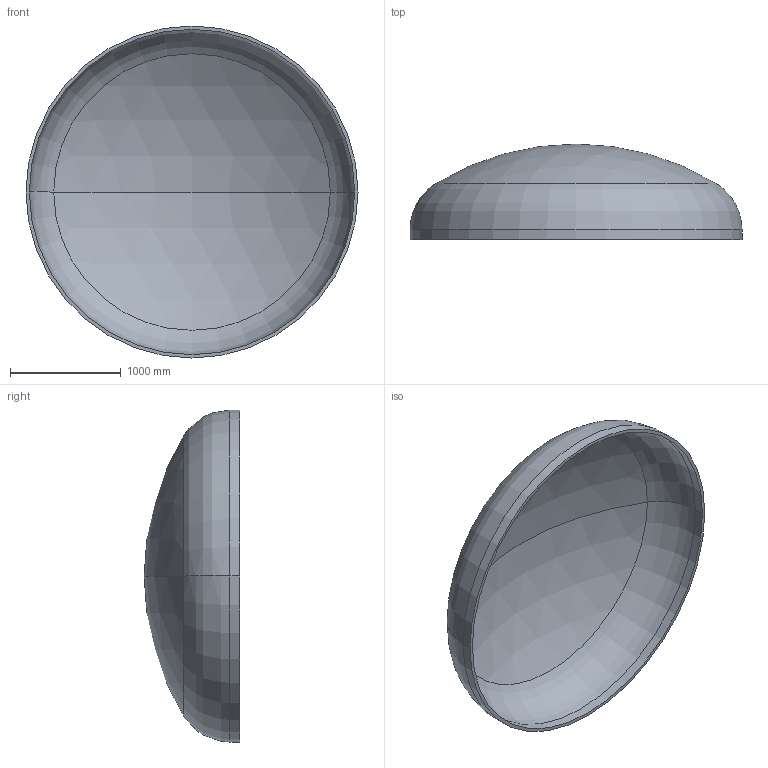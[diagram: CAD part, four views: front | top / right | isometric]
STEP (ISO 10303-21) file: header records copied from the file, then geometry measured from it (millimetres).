
FILE_DESCRIPTION (( 'STEP AP203' ), '1' );
FILE_NAME ('DIN 28013 Korbbogenform_-_Boden DIN 28013 - 3000 x 90 - I - s=30.step', '2016-07-01T17:40:05', ( '' ), ( '' ), 'SwSTEP 2.0', 'SolidWorks 2013', '' );
FILE_SCHEMA (( 'CONFIG_CONTROL_DESIGN' ));
Length unit declared in the file: millimetre
Products named in the file (1): DIN 28013 Korbbogenform_-_Boden DIN 28013 - 3000 x 90 - I - s=30
Bounding box: 3000 x 863.65 x 3000 mm (x, y, z)
Volume: 314784550.9 mm3; surface area: 21267429.8 mm2
Topology: 1 solids, 1 shells, 13 faces, 24 edges, 14 vertices
Faces by surface type: torus 4, cylinder 4, sphere 4, plane 1
Entity records: 407 total; most frequent: DIRECTION 72, CARTESIAN_POINT 52, ORIENTED_EDGE 48, AXIS2_PLACEMENT_3D 34, EDGE_CURVE 24, CIRCLE 20, EDGE_LOOP 14, VERTEX_POINT 14
